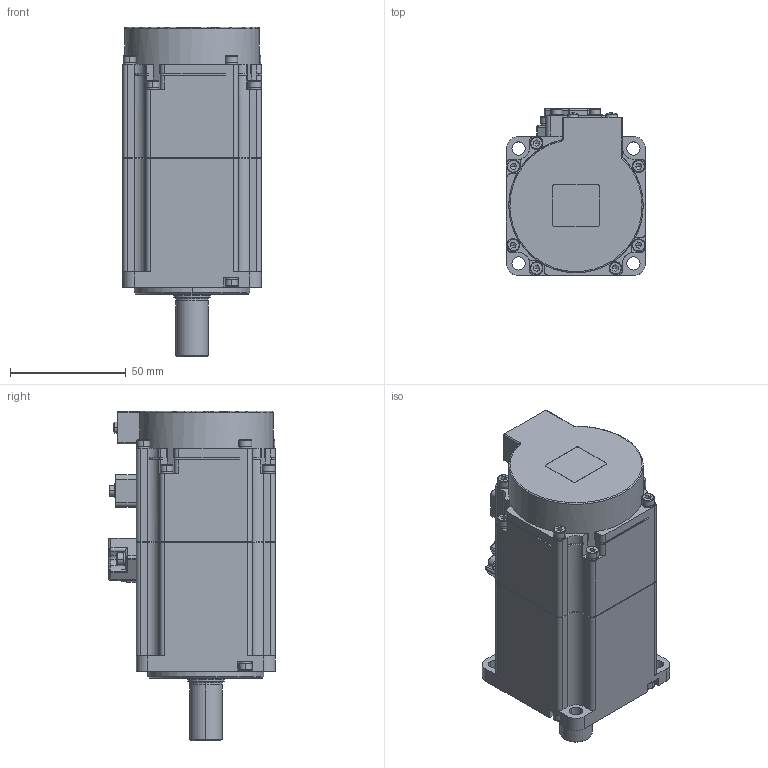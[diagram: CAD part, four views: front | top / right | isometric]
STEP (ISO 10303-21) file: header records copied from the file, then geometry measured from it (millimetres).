
FILE_DESCRIPTION (( 'STEP AP214' ), '1' );
FILE_NAME ('SME-H020B.STEP', '2020-05-18T08:13:26', ( '' ), ( '' ), 'SwSTEP 2.0', 'SolidWorks 2016', '' );
FILE_SCHEMA (( 'AUTOMOTIVE_DESIGN' ));
Length unit declared in the file: millimetre
Products named in the file (1): SME-H020B
Bounding box: 60 x 72 x 142 mm (x, y, z)
Volume: 107922.4 mm3; surface area: 72105.2 mm2
Topology: 45 solids, 45 shells, 1147 faces, 2927 edges, 1859 vertices
Faces by surface type: plane 457, cylinder 439, cone 166, bspline 85
Entity records: 47915 total; most frequent: CARTESIAN_POINT 9384, DIRECTION 5881, ORIENTED_EDGE 5690, EDGE_CURVE 2845, AXIS2_PLACEMENT_3D 2261, VERTEX_POINT 1859, LINE 1359, VECTOR 1359
